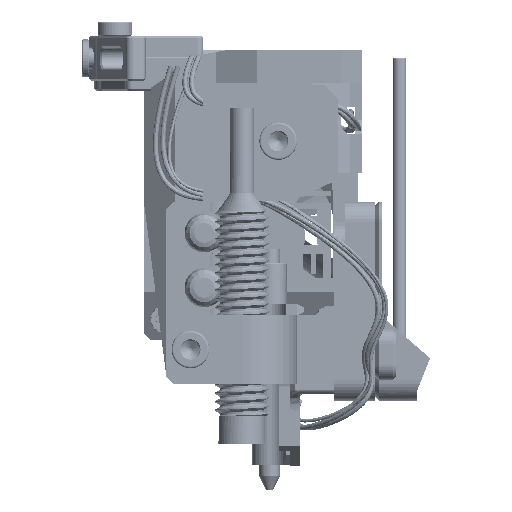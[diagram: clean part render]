
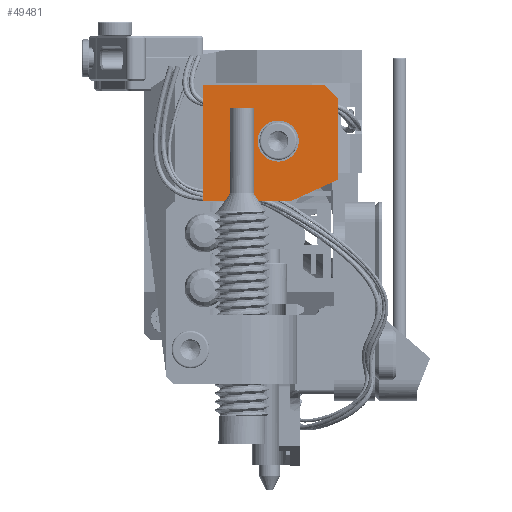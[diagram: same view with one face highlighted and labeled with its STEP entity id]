
A CAD part, left-side view. The second image highlights one B-rep face of the part: STEP entity #49481.
In plain terms, the highlighted planar face has unit normal (-1, 0, 0).
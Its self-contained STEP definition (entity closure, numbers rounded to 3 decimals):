
#817=FACE_BOUND('',#6358,.T.);
#1565=PLANE('',#52926);
#3495=FACE_OUTER_BOUND('',#6357,.T.);
#6357=EDGE_LOOP('',(#35323,#35324,#35325,#35326,#35327,#35328));
#6358=EDGE_LOOP('',(#35329));
#9218=CIRCLE('',#52904,3.);
#11774=LINE('',#88206,#16545);
#11778=LINE('',#88213,#16549);
#11787=LINE('',#88231,#16558);
#11790=LINE('',#88238,#16561);
#11800=LINE('',#88261,#16571);
#11803=LINE('',#88268,#16574);
#16545=VECTOR('',#57923,10.);
#16549=VECTOR('',#57929,10.);
#16558=VECTOR('',#57942,10.);
#16561=VECTOR('',#57949,10.);
#16571=VECTOR('',#57969,10.);
#16574=VECTOR('',#57978,10.);
#21569=VERTEX_POINT('',#88188);
#21574=VERTEX_POINT('',#88203);
#21575=VERTEX_POINT('',#88205);
#21577=VERTEX_POINT('',#88211);
#21584=VERTEX_POINT('',#88229);
#21586=VERTEX_POINT('',#88237);
#21594=VERTEX_POINT('',#88259);
#26821=EDGE_CURVE('',#21569,#21569,#9218,.T.);
#26829=EDGE_CURVE('',#21574,#21575,#11774,.T.);
#26833=EDGE_CURVE('',#21577,#21574,#11778,.T.);
#26842=EDGE_CURVE('',#21584,#21577,#11787,.T.);
#26845=EDGE_CURVE('',#21575,#21586,#11790,.T.);
#26857=EDGE_CURVE('',#21584,#21594,#11800,.T.);
#26861=EDGE_CURVE('',#21594,#21586,#11803,.T.);
#35323=ORIENTED_EDGE('',*,*,#26829,.F.);
#35324=ORIENTED_EDGE('',*,*,#26833,.F.);
#35325=ORIENTED_EDGE('',*,*,#26842,.F.);
#35326=ORIENTED_EDGE('',*,*,#26857,.T.);
#35327=ORIENTED_EDGE('',*,*,#26861,.T.);
#35328=ORIENTED_EDGE('',*,*,#26845,.F.);
#35329=ORIENTED_EDGE('',*,*,#26821,.T.);
#49481=ADVANCED_FACE('',(#3495,#817),#1565,.T.);
#52904=AXIS2_PLACEMENT_3D('',#88189,#57907,#57908);
#52926=AXIS2_PLACEMENT_3D('',#88275,#57988,#57989);
#57907=DIRECTION('center_axis',(1.,0.,0.));
#57908=DIRECTION('ref_axis',(0.,-1.,0.));
#57923=DIRECTION('',(0.,-0.707,-0.707));
#57929=DIRECTION('',(0.,-1.,0.));
#57942=DIRECTION('',(0.,0.,1.));
#57949=DIRECTION('',(0.,0.,-1.));
#57969=DIRECTION('',(0.,-1.,0.));
#57978=DIRECTION('',(0.,-0.91,0.414));
#57988=DIRECTION('center_axis',(-1.,0.,0.));
#57989=DIRECTION('ref_axis',(0.,-1.,0.));
#88188=CARTESIAN_POINT('',(-11.05,43.693,-6.));
#88189=CARTESIAN_POINT('Origin',(-11.05,40.693,-6.));
#88203=CARTESIAN_POINT('',(-11.05,34.,2.2));
#88205=CARTESIAN_POINT('',(-11.05,32.,0.2));
#88206=CARTESIAN_POINT('',(-11.05,33.348,1.548));
#88211=CARTESIAN_POINT('',(-11.05,51.686,2.2));
#88213=CARTESIAN_POINT('',(-11.05,51.686,2.2));
#88229=CARTESIAN_POINT('',(-11.05,51.686,-14.7));
#88231=CARTESIAN_POINT('',(-11.05,51.686,-14.7));
#88237=CARTESIAN_POINT('',(-11.05,32.,-11.645));
#88238=CARTESIAN_POINT('',(-11.05,32.,2.2));
#88259=CARTESIAN_POINT('',(-11.05,38.721,-14.7));
#88261=CARTESIAN_POINT('',(-11.05,51.686,-14.7));
#88268=CARTESIAN_POINT('',(-11.05,38.721,-14.7));
#88275=CARTESIAN_POINT('Origin',(-11.05,41.843,-6.25));
